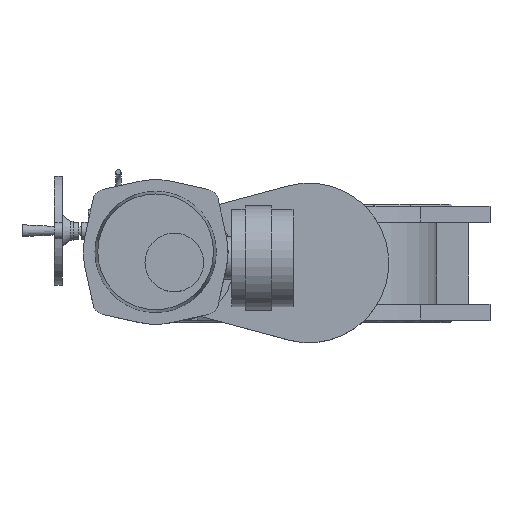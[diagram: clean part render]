
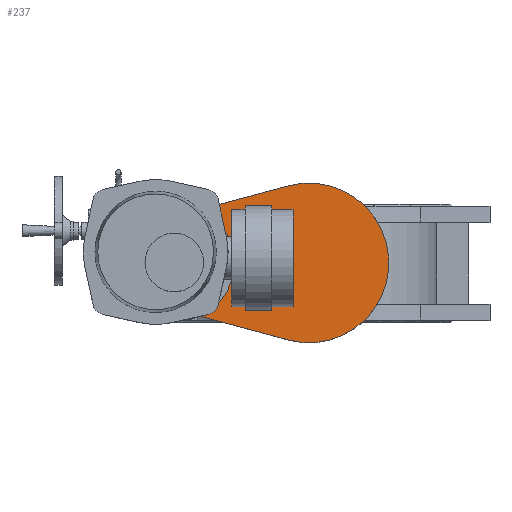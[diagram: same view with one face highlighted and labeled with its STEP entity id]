
A CAD part, top view. The second image highlights one B-rep face of the part: STEP entity #237.
In plain terms, the highlighted planar face has unit normal (0, 0, 1).
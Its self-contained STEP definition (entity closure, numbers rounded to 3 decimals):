
#237=ADVANCED_FACE('',(#3662),#3664,.F.);
#3662=FACE_BOUND('',#3663,.T.);
#3663=EDGE_LOOP('',(#6514,#6515,#6516,#6517,#6518));
#3664=PLANE('',#3665);
#3665=AXIS2_PLACEMENT_3D('',#3666,#3667,#3668);
#3666=CARTESIAN_POINT('',(-288.,20.,492.));
#3667=DIRECTION('',(0.,0.,-1.));
#3668=DIRECTION('',(-1.,0.,0.));
#6514=ORIENTED_EDGE('',*,*,#8602,.T.);
#6515=ORIENTED_EDGE('',*,*,#8603,.T.);
#6516=ORIENTED_EDGE('',*,*,#8604,.F.);
#6517=ORIENTED_EDGE('',*,*,#8576,.F.);
#6518=ORIENTED_EDGE('',*,*,#8605,.F.);
#8576=EDGE_CURVE('',#9657,#9658,#9659,.T.);
#8602=EDGE_CURVE('',#9706,#9707,#9708,.F.);
#8603=EDGE_CURVE('',#9707,#9709,#9710,.F.);
#8604=EDGE_CURVE('',#9658,#9709,#9711,.T.);
#8605=EDGE_CURVE('',#9706,#9657,#9712,.T.);
#9657=VERTEX_POINT('',#11535);
#9658=VERTEX_POINT('',#11536);
#9659=CIRCLE('',#11537,150.);
#9706=VERTEX_POINT('',#11660);
#9707=VERTEX_POINT('',#11661);
#9708=CIRCLE('',#11662,85.);
#9709=VERTEX_POINT('',#11666);
#9710=CIRCLE('',#11667,85.);
#9711=LINE('',#11671,#11672);
#9712=LINE('',#11674,#11675);
#11535=CARTESIAN_POINT('',(-39.,144.841,492.));
#11536=CARTESIAN_POINT('',(-39.,-144.841,492.));
#11537=AXIS2_PLACEMENT_3D('',#11538,#11539,#11540);
#11538=CARTESIAN_POINT('',(0.,0.,492.));
#11539=DIRECTION('',(0.,0.,-1.));
#11540=DIRECTION('',(-0.26,0.966,0.));
#11660=CARTESIAN_POINT('',(-272.1,82.077,492.));
#11661=CARTESIAN_POINT('',(-165.,0.,492.));
#11662=AXIS2_PLACEMENT_3D('',#11663,#11664,#11665);
#11663=CARTESIAN_POINT('',(-250.,0.,492.));
#11664=DIRECTION('',(0.,0.,1.));
#11665=DIRECTION('',(1.,0.,0.));
#11666=CARTESIAN_POINT('',(-272.1,-82.077,492.));
#11667=AXIS2_PLACEMENT_3D('',#11668,#11669,#11670);
#11668=CARTESIAN_POINT('',(-250.,0.,492.));
#11669=DIRECTION('',(0.,0.,1.));
#11670=DIRECTION('',(-0.26,-0.966,0.));
#11671=CARTESIAN_POINT('',(-39.,-144.841,492.));
#11672=VECTOR('',#11673,1.);
#11673=DIRECTION('',(-0.966,0.26,0.));
#11674=CARTESIAN_POINT('',(-272.1,82.077,492.));
#11675=VECTOR('',#11676,1.);
#11676=DIRECTION('',(0.966,0.26,0.));
